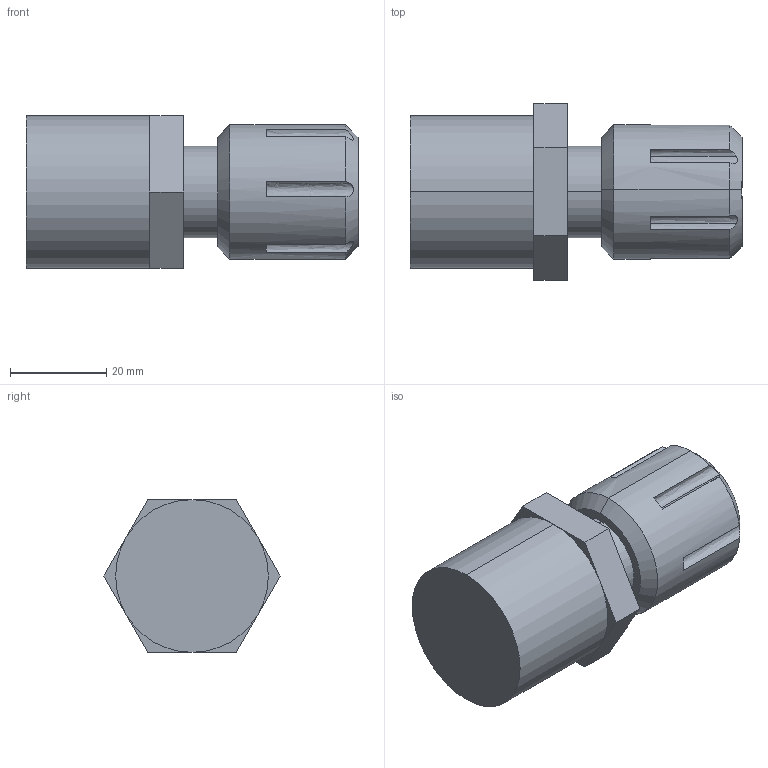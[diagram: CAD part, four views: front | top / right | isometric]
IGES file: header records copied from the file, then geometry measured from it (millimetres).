
Start section: SolidWorks IGES file using analytic representation for surfaces
Global section: file name: S:\Product Visuals\Defeatured Models\Parts Library\Liquid Fittings\Front Mount liquid Fittings\Flaretek Compatible\60LPM\Fitting Flaretek Compatible 12.IGS; native system: SolidWorks 2012; preprocessor: SolidWorks 2012; author: rachel.dressel; date: 120921.131221; units: inch
Bounding box: 69.06 x 36.66 x 31.75 mm (x, y, z)
Volume: 44584.8 mm3; surface area: 8901.3 mm2
Topology: 1 solids, 1 shells, 43 faces, 102 edges, 64 vertices
Faces by surface type: plane 23, revolution 20
